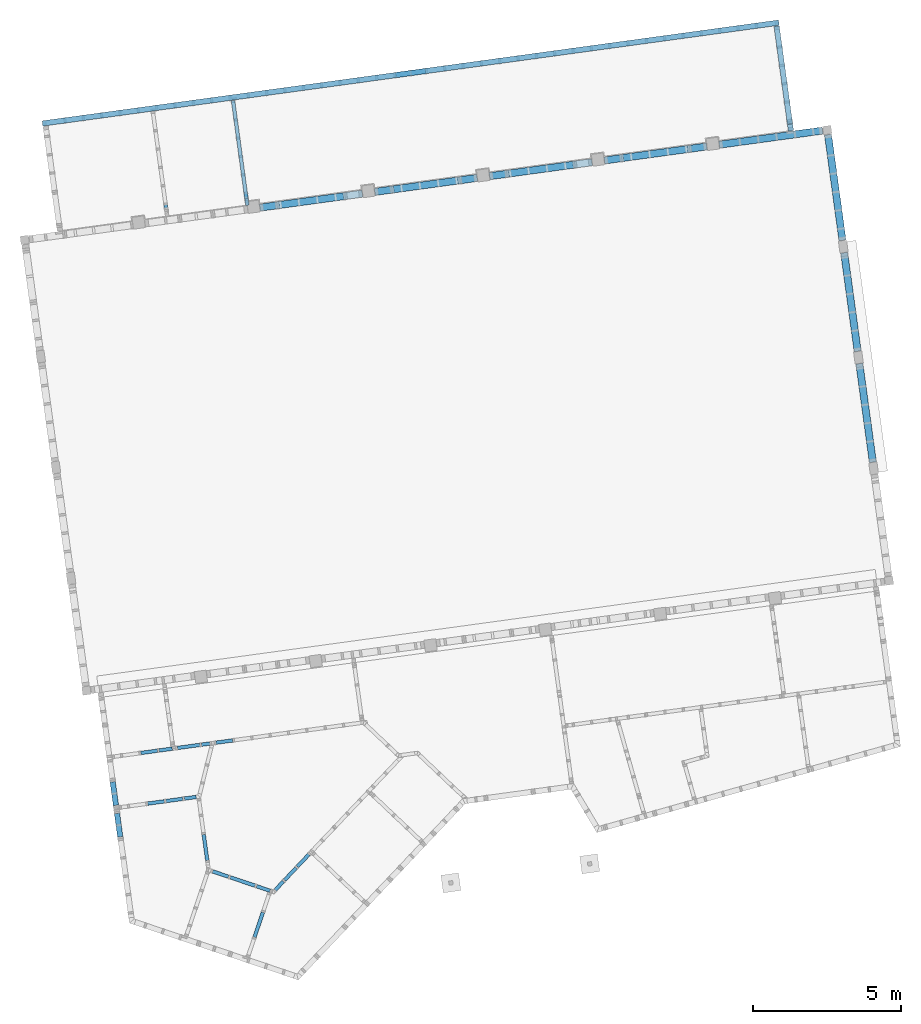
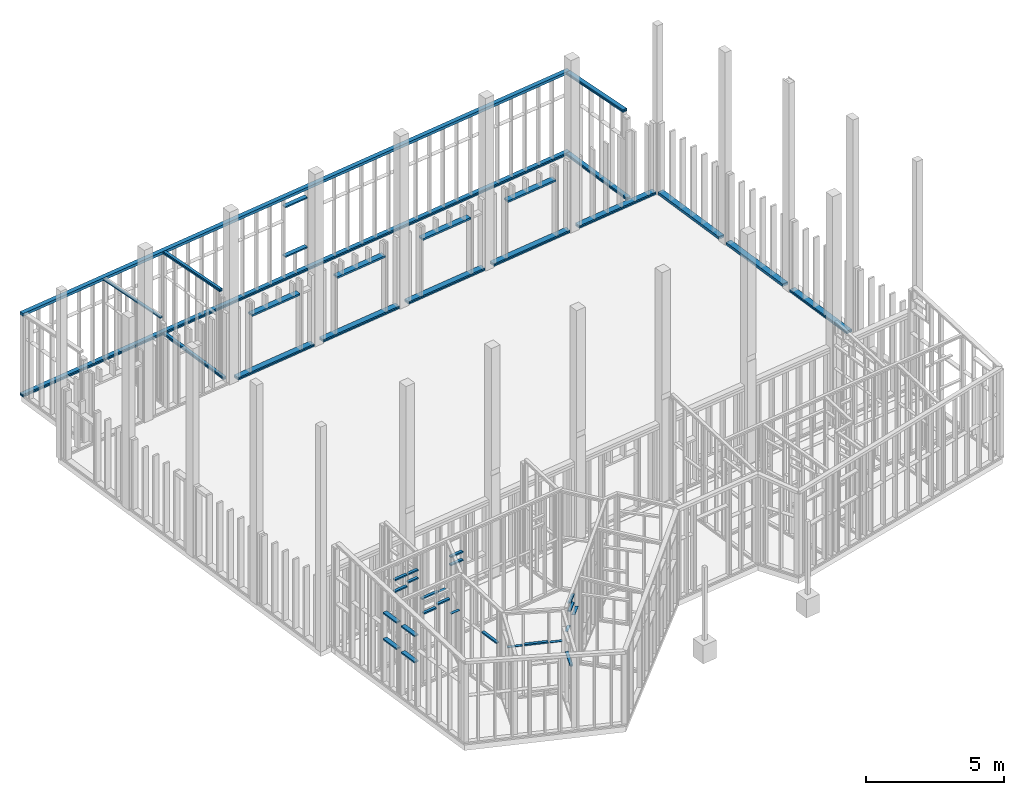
# One storey, part 13 of 24: 58 beams.
"""IFC2X3 building model written with IfcOpenShell, lengths in metres."""

from ifc_helpers import new_model, entity, si_unit, converted_unit, derived_unit, money_unit, direction, frame, frame_2d, origin_with_axes, place, context, subcontext, project, spatial, rectangle, extrude, clip, halfspace, material, type_object, element, save


model = new_model("IFC2X3")

# Units and contexts
model_context = context("Model", 3, precision=1e-05, world=origin_with_axes(), true_north=direction((0.0, 1.0)))
body_context = subcontext(model_context, "Body", "Model", "MODEL_VIEW")
ifc_project = project(units=[si_unit("LENGTHUNIT", "METRE"), si_unit("AREAUNIT", "SQUARE_METRE"), si_unit("VOLUMEUNIT", "CUBIC_METRE"), converted_unit("PLANEANGLEUNIT", "DEGREE", entity("IfcPlaneAngleMeasure", 0.0174532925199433), si_unit("PLANEANGLEUNIT", "RADIAN"), dimensions=[0, 0, 0, 0, 0, 0, 0]), money_unit("EUR"), converted_unit("TIMEUNIT", "Year", entity("IfcTimeMeasure", 31557600.0), si_unit("TIMEUNIT", "SECOND"), dimensions=[0, 0, 1, 0, 0, 0, 0]), si_unit("MASSUNIT", "GRAM", prefix="KILO"), si_unit("THERMODYNAMICTEMPERATUREUNIT", "DEGREE_CELSIUS"), si_unit("LUMINOUSINTENSITYUNIT", "LUMEN"), si_unit("ENERGYUNIT", "JOULE", prefix="MEGA"), derived_unit("THERMALCONDUCTANCEUNIT", [(si_unit("POWERUNIT", "WATT"), 1), (si_unit("LENGTHUNIT", "METRE"), -1), (si_unit("THERMODYNAMICTEMPERATUREUNIT", "KELVIN"), -1)]), derived_unit("SPECIFICHEATCAPACITYUNIT", [(si_unit("ENERGYUNIT", "JOULE"), 1), (si_unit("MASSUNIT", "GRAM", prefix="KILO"), -1), (si_unit("THERMODYNAMICTEMPERATUREUNIT", "KELVIN"), -1)]), derived_unit("MASSDENSITYUNIT", [(si_unit("MASSUNIT", "GRAM", prefix="KILO"), 1), (si_unit("VOLUMEUNIT", "CUBIC_METRE"), -1)])], contexts=[model_context])

# Site, building, storey
site_placement = place(None, origin_with_axes())
site = spatial("IfcSite", under=ifc_project, at=site_placement, Name="Gelände", CompositionType="ELEMENT")
building_placement = place(site_placement, origin_with_axes())
building = spatial("IfcBuilding", under=site, at=building_placement, Name="Gebäude", CompositionType="ELEMENT")
storey_placement = place(building_placement, origin_with_axes())
storey = spatial("IfcBuildingStorey", under=building, at=storey_placement, Name="EG", CompositionType="ELEMENT", Elevation=0.0)

# Beams
ifc_material_1 = material(Name="Bauholz")
beam_type_1 = type_object("IfcBeamType", Name="Bauholz 120 x 60", PredefinedType="NOTDEFINED")
beam_1_placement = place(storey_placement, frame((91.99806383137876, -134.3936317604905, 3.753975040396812), z_axis=(0.0, 0.0, 1.0), x_axis=(0.9907484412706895, 0.1357111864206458, 0.0)))
element("IfcBeam", 1, at=beam_1_placement, inside=storey, type_object=beam_type_1, material=ifc_material_1, Name="Unterzug-021", context=body_context, shape_type="Clipping", body=[
    clip(clip(extrude(rectangle(XDim=0.06, YDim=0.12, at=frame_2d((-0.03, 0.0), x_axis=(1.0, 0.0))), frame((0.0, -0.008881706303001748, 0.0004654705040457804), z_axis=(0.0, 0.9986295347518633, -0.05233595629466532), x_axis=(0.0, 0.05233595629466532, 0.9986295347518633)), (0.0, 0.0, 1.0), 3.361870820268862), halfspace(frame((0.0, 0.0, 0.0), z_axis=(0.0, 1.0, 0.0), x_axis=(0.0, 0.0, 1.0)), True)), halfspace(frame((0.0, 3.339500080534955, 0.0), z_axis=(0.0, -1.0, 0.0), x_axis=(0.0, 0.0, -1.0)), True)),
])
beam_2_placement = place(storey_placement, frame((89.66918951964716, -152.9504990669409, 2.195), z_axis=(0.0, 0.0, 1.0), x_axis=(0.1357111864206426, -0.99074844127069, 0.0)))
element("IfcBeam", 2, at=beam_2_placement, inside=storey, type_object=beam_type_1, material=ifc_material_1, Name="Unterzug-021", context=body_context, shape_type="SweptSolid", body=[
    extrude(rectangle(XDim=0.06, YDim=0.12, at=frame_2d((-0.03, 0.0), x_axis=(1.0, 0.0))), frame((0.0, 0.0, 0.0), z_axis=(0.0, 1.0, 0.0), x_axis=(0.0, 0.0, 1.0)), (0.0, 0.0, 1.0), 0.760000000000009),
])
beam_3_placement = place(storey_placement, frame((90.55506909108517, -155.8726974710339, 2.195), z_axis=(0.0, 0.0, 1.0), x_axis=(-0.990748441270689, -0.1357111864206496, 0.0)))
element("IfcBeam", 3, at=beam_3_placement, inside=storey, type_object=beam_type_1, material=ifc_material_1, Name="Unterzug-021", context=body_context, shape_type="SweptSolid", body=[
    extrude(rectangle(XDim=0.06, YDim=0.12, at=frame_2d((-0.03, 0.0), x_axis=(1.0, 0.0))), frame((0.0, 0.0, 0.0), z_axis=(0.0, 1.0, 0.0), x_axis=(0.0, 0.0, 1.0)), (0.0, 0.0, 1.0), 0.8849999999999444),
])
beam_4_placement = place(storey_placement, frame((91.4473038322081, -157.3179234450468, 2.195), z_axis=(0.0, 0.0, 1.0), x_axis=(-0.3197980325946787, -0.9474857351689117, 0.0)))
element("IfcBeam", 4, at=beam_4_placement, inside=storey, type_object=beam_type_1, material=ifc_material_1, Name="Unterzug-021", context=body_context, shape_type="SweptSolid", body=[
    extrude(rectangle(XDim=0.06, YDim=0.12, at=frame_2d((-0.03, 0.0), x_axis=(1.0, 0.0))), frame((0.0, 0.0, 0.0), z_axis=(0.0, 1.0, 0.0), x_axis=(0.0, 0.0, 1.0)), (0.0, 0.0, 1.0), 0.8849999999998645),
])
beam_5_placement = place(storey_placement, frame((92.27077831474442, -159.3413116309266, 2.195), z_axis=(0.0, 0.0, 1.0), x_axis=(0.9474859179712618, -0.3197974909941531, 0.0)))
element("IfcBeam", 5, at=beam_5_placement, inside=storey, type_object=beam_type_1, material=ifc_material_1, Name="Unterzug-021", context=body_context, shape_type="SweptSolid", body=[
    extrude(rectangle(XDim=0.06, YDim=0.12, at=frame_2d((-0.03, 0.0), x_axis=(1.0, 0.0))), frame((0.0, 0.0, 0.0), z_axis=(0.0, 1.0, 0.0), x_axis=(0.0, 0.0, 1.0)), (0.0, 0.0, 1.0), 0.8850000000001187),
])
beam_6_placement = place(storey_placement, frame((89.290650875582, -134.7644889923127, 3.753975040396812), z_axis=(0.0, 0.0, 1.0), x_axis=(0.9907484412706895, 0.1357111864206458, 0.0)))
element("IfcBeam", 6, at=beam_6_placement, inside=storey, type_object=beam_type_1, material=ifc_material_1, Name="Unterzug-021", context=body_context, shape_type="Clipping", body=[
    clip(clip(extrude(rectangle(XDim=0.06, YDim=0.12, at=frame_2d((-0.03, 0.0), x_axis=(1.0, 0.0))), frame((0.0, -0.008881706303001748, 0.0004654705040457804), z_axis=(0.0, 0.9986295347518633, -0.05233595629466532), x_axis=(0.0, 0.05233595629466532, 0.9986295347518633)), (0.0, 0.0, 1.0), 3.361870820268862), halfspace(frame((0.0, 0.0, 0.0), z_axis=(0.0, 1.0, 0.0), x_axis=(0.0, 0.0, 1.0)), True)), halfspace(frame((0.0, 3.339500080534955, 0.0), z_axis=(0.0, -1.0, 0.0), x_axis=(0.0, 0.0, -1.0)), True)),
])
beam_7_placement = place(storey_placement, frame((92.02968452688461, -134.624476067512, 0.04999999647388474), z_axis=(0.0, 0.0, 1.0), x_axis=(0.99074844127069, 0.1357111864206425, 0.0)))
element("IfcBeam", 7, at=beam_7_placement, inside=storey, type_object=beam_type_1, material=ifc_material_1, Name="Unterzug-021", context=body_context, shape_type="SweptSolid", body=[
    extrude(rectangle(XDim=0.06, YDim=0.12, at=frame_2d((-0.03, 0.0), x_axis=(1.0, 0.0))), frame((0.0, 0.0, 0.0), z_axis=(0.0, 1.0, 0.0), x_axis=(0.0, 0.0, 1.0)), (0.0, 0.0, 1.0), 3.572499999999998),
])
for number, where, z_axis, x_axis, name in (
    (8, (88.43075396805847, -153.1201380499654, 3.053158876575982), (0.0, 0.0, 1.0), (0.1357111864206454, -0.9907484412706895, 0.0), "Unterzug-021"),
    (9, (88.43075396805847, -153.1201380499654, 3.570158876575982), (0.0, 0.0, 1.0), (0.1357111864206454, -0.9907484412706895, 0.0), "Unterzug-021"),
):
    element("IfcBeam", number, at=place(storey_placement, frame(where, z_axis=z_axis, x_axis=x_axis)), inside=storey, type_object=beam_type_1, material=ifc_material_1, Name=name, context=body_context, shape_type="SweptSolid", body=[
        extrude(rectangle(XDim=0.06, YDim=0.12, at=frame_2d((-0.03, 0.0), x_axis=(1.0, 0.0))), frame((0.0, 0.0, 0.0), z_axis=(0.0, 1.0, 0.0), x_axis=(0.0, 0.0, 1.0)), (0.0, 0.0, 1.0), 0.5649999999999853),
    ])
for number, where, z_axis, x_axis, name in (
    (10, (89.04997174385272, -153.035318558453, 3.568823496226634), (0.0, 0.0, 1.0), (0.1357111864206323, -0.9907484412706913, 0.0), "Unterzug-021"),
    (11, (89.04997174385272, -153.035318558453, 3.206823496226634), (0.0, 0.0, 1.0), (0.1357111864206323, -0.9907484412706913, 0.0), "Unterzug-021"),
):
    element("IfcBeam", number, at=place(storey_placement, frame(where, z_axis=z_axis, x_axis=x_axis)), inside=storey, type_object=beam_type_1, material=ifc_material_1, Name=name, context=body_context, shape_type="SweptSolid", body=[
        extrude(rectangle(XDim=0.06, YDim=0.12, at=frame_2d((-0.03, 0.0), x_axis=(1.0, 0.0))), frame((0.0, 0.0, 0.0), z_axis=(0.0, 1.0, 0.0), x_axis=(0.0, 0.0, 1.0)), (0.0, 0.0, 1.0), 0.4449999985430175),
    ])
for number, where, z_axis, x_axis, name in (
    (12, (90.97152172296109, -152.7721076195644, 3.130658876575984), (0.0, 0.0, 1.0), (0.1357111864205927, -0.9907484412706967, 0.0), "Unterzug-021"),
    (13, (90.97152172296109, -152.7721076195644, 3.492658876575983), (0.0, 0.0, 1.0), (0.1357111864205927, -0.9907484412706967, 0.0), "Unterzug-021"),
):
    element("IfcBeam", number, at=place(storey_placement, frame(where, z_axis=z_axis, x_axis=x_axis)), inside=storey, type_object=beam_type_1, material=ifc_material_1, Name=name, context=body_context, shape_type="SweptSolid", body=[
        extrude(rectangle(XDim=0.06, YDim=0.12, at=frame_2d((-0.03, 0.0), x_axis=(1.0, 0.0))), frame((0.0, 0.0, 0.0), z_axis=(0.0, 1.0, 0.0), x_axis=(0.0, 0.0, 1.0)), (0.0, 0.0, 1.0), 0.5649999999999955),
    ])
beam_8_placement = place(storey_placement, frame((89.84384641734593, -154.6676828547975, 3.181823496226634), z_axis=(0.0, 0.0, 1.0), x_axis=(-0.135711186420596, 0.9907484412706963, 0.0)))
element("IfcBeam", 14, at=beam_8_placement, inside=storey, type_object=beam_type_1, material=ifc_material_1, Name="Unterzug-021", context=body_context, shape_type="SweptSolid", body=[
    extrude(rectangle(XDim=0.06, YDim=0.12, at=frame_2d((-0.03, 0.0), x_axis=(1.0, 0.0))), frame((0.0, 0.0, 0.0), z_axis=(0.0, 1.0, 0.0), x_axis=(0.0, 0.0, 1.0)), (0.0, 0.0, 1.0), 0.5649999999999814),
])
beam_9_placement = place(storey_placement, frame((89.22462864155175, -154.7525023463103, 3.053158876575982), z_axis=(0.0, 0.0, 1.0), x_axis=(-0.1357111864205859, 0.9907484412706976, 0.0)))
element("IfcBeam", 15, at=beam_9_placement, inside=storey, type_object=beam_type_1, material=ifc_material_1, Name="Unterzug-021", context=body_context, shape_type="SweptSolid", body=[
    extrude(rectangle(XDim=0.06, YDim=0.12, at=frame_2d((-0.03, 0.0), x_axis=(1.0, 0.0))), frame((0.0, 0.0, 0.0), z_axis=(0.0, 1.0, 0.0), x_axis=(0.0, 0.0, 1.0)), (0.0, 0.0, 1.0), 0.5650000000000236),
])
for number, where, z_axis, x_axis, name in (
    (16, (93.28633977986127, -157.4133518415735, 3.448606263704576), (0.0, 0.0, 1.0), (0.7262467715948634, -0.687434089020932, 0.0), "Unterzug-021"),
    (17, (93.28633977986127, -157.4133518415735, 3.086606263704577), (0.0, 0.0, 1.0), (0.7262467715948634, -0.687434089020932, 0.0), "Unterzug-021"),
):
    element("IfcBeam", number, at=place(storey_placement, frame(where, z_axis=z_axis, x_axis=x_axis)), inside=storey, type_object=beam_type_1, material=ifc_material_1, Name=name, context=body_context, shape_type="SweptSolid", body=[
        extrude(rectangle(XDim=0.06, YDim=0.12, at=frame_2d((-0.03, 0.0), x_axis=(1.0, 0.0))), frame((0.0, 0.0, 0.0), z_axis=(0.0, 1.0, 0.0), x_axis=(0.0, 0.0, 1.0)), (0.0, 0.0, 1.0), 0.5649999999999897),
    ])
ifc_material_2 = material(Name="Holz, Bauholz")
beam_type_2 = type_object("IfcBeamType", Name="Holz, Bauholz 240 x 60", PredefinedType="NOTDEFINED")
beam_10_placement = place(storey_placement, frame((111.4561507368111, -132.0997294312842, -0.08800000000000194), z_axis=(0.0, 0.0, 1.0), x_axis=(-0.1357111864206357, 0.9907484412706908, 0.0)))
element("IfcBeam", 18, at=beam_10_placement, inside=storey, type_object=beam_type_2, material=ifc_material_2, Name="Unterzug-021", context=body_context, shape_type="SweptSolid", body=[
    extrude(rectangle(XDim=0.06, YDim=0.24, at=frame_2d((-0.03, 0.0), x_axis=(1.0, 0.0))), frame((0.0, 0.0, 0.0), z_axis=(0.0, 1.0, 0.0), x_axis=(0.0, 0.0, 1.0)), (0.0, 0.0, 1.0), 3.524285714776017),
])
beam_11_placement = place(storey_placement, frame((107.5483558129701, -132.6350131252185, -0.08800000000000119), z_axis=(0.0, 0.0, 1.0), x_axis=(-0.1357111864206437, 0.9907484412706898, 0.0)))
element("IfcBeam", 19, at=beam_11_placement, inside=storey, type_object=beam_type_2, material=ifc_material_2, Name="Unterzug-021", context=body_context, shape_type="SweptSolid", body=[
    extrude(rectangle(XDim=0.06, YDim=0.24, at=frame_2d((-0.03, 0.0), x_axis=(1.0, 0.0))), frame((0.0, 0.0, 0.0), z_axis=(0.0, 1.0, 0.0), x_axis=(0.0, 0.0, 1.0)), (0.0, 0.0, 1.0), 3.494285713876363),
])
beam_12_placement = place(storey_placement, frame((103.6702833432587, -133.166225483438, -0.08800000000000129), z_axis=(0.0, 0.0, 1.0), x_axis=(-0.1357111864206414, 0.9907484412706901, 0.0)))
element("IfcBeam", 20, at=beam_12_placement, inside=storey, type_object=beam_type_2, material=ifc_material_2, Name="Unterzug-021", context=body_context, shape_type="SweptSolid", body=[
    extrude(rectangle(XDim=0.06, YDim=0.24, at=frame_2d((-0.03, 0.0), x_axis=(1.0, 0.0))), frame((0.0, 0.0, 0.0), z_axis=(0.0, 1.0, 0.0), x_axis=(0.0, 0.0, 1.0)), (0.0, 0.0, 1.0), 3.494285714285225),
])
beam_13_placement = place(storey_placement, frame((95.91413840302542, -134.2286501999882, -0.08800000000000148), z_axis=(0.0, 0.0, 1.0), x_axis=(-0.1357111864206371, 0.9907484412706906, 0.0)))
element("IfcBeam", 21, at=beam_13_placement, inside=storey, type_object=beam_type_2, material=ifc_material_2, Name="Unterzug-021", context=body_context, shape_type="SweptSolid", body=[
    extrude(rectangle(XDim=0.06, YDim=0.24, at=frame_2d((-0.03, 0.0), x_axis=(1.0, 0.0))), frame((0.0, 0.0, 0.0), z_axis=(0.0, 1.0, 0.0), x_axis=(0.0, 0.0, 1.0)), (0.0, 0.0, 1.0), 3.494285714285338),
])
beam_14_placement = place(storey_placement, frame((99.79221087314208, -133.6974378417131, -0.08800000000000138), z_axis=(0.0, 0.0, 1.0), x_axis=(-0.1357111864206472, 0.9907484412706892, 0.0)))
element("IfcBeam", 22, at=beam_14_placement, inside=storey, type_object=beam_type_2, material=ifc_material_2, Name="Unterzug-021", context=body_context, shape_type="SweptSolid", body=[
    extrude(rectangle(XDim=0.06, YDim=0.24, at=frame_2d((-0.03, 0.0), x_axis=(1.0, 0.0))), frame((0.0, 0.0, 0.0), z_axis=(0.0, 1.0, 0.0), x_axis=(0.0, 0.0, 1.0)), (0.0, 0.0, 1.0), 3.494285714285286),
])
beam_type_3 = type_object("IfcBeamType", Name="Bauholz 240 x 60", PredefinedType="NOTDEFINED")
beam_15_placement = place(storey_placement, frame((111.4561507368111, -132.0997294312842, -0.02800000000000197), z_axis=(0.0, 0.0, 1.0), x_axis=(-0.1357111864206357, 0.9907484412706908, 0.0)))
element("IfcBeam", 23, at=beam_15_placement, inside=storey, type_object=beam_type_3, material=ifc_material_1, Name="Unterzug-021", context=body_context, shape_type="SweptSolid", body=[
    extrude(rectangle(XDim=0.06, YDim=0.24, at=frame_2d((-0.03, 0.0), x_axis=(1.0, 0.0))), frame((0.0, 0.0, 0.0), z_axis=(0.0, 1.0, 0.0), x_axis=(0.0, 0.0, 1.0)), (0.0, 0.0, 1.0), 3.524285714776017),
])
beam_16_placement = place(storey_placement, frame((107.5483558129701, -132.6350131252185, -0.02800000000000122), z_axis=(0.0, 0.0, 1.0), x_axis=(-0.1357111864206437, 0.9907484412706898, 0.0)))
element("IfcBeam", 24, at=beam_16_placement, inside=storey, type_object=beam_type_3, material=ifc_material_1, Name="Unterzug-021", context=body_context, shape_type="SweptSolid", body=[
    extrude(rectangle(XDim=0.06, YDim=0.24, at=frame_2d((-0.03, 0.0), x_axis=(1.0, 0.0))), frame((0.0, 0.0, 0.0), z_axis=(0.0, 1.0, 0.0), x_axis=(0.0, 0.0, 1.0)), (0.0, 0.0, 1.0), 3.494285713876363),
])
beam_17_placement = place(storey_placement, frame((103.6702833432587, -133.166225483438, -0.02800000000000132), z_axis=(0.0, 0.0, 1.0), x_axis=(-0.1357111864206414, 0.9907484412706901, 0.0)))
element("IfcBeam", 25, at=beam_17_placement, inside=storey, type_object=beam_type_3, material=ifc_material_1, Name="Unterzug-021", context=body_context, shape_type="SweptSolid", body=[
    extrude(rectangle(XDim=0.06, YDim=0.24, at=frame_2d((-0.03, 0.0), x_axis=(1.0, 0.0))), frame((0.0, 0.0, 0.0), z_axis=(0.0, 1.0, 0.0), x_axis=(0.0, 0.0, 1.0)), (0.0, 0.0, 1.0), 3.494285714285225),
])
beam_18_placement = place(storey_placement, frame((99.79221087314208, -133.6974378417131, -0.02800000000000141), z_axis=(0.0, 0.0, 1.0), x_axis=(-0.1357111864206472, 0.9907484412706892, 0.0)))
element("IfcBeam", 26, at=beam_18_placement, inside=storey, type_object=beam_type_3, material=ifc_material_1, Name="Unterzug-021", context=body_context, shape_type="SweptSolid", body=[
    extrude(rectangle(XDim=0.06, YDim=0.24, at=frame_2d((-0.03, 0.0), x_axis=(1.0, 0.0))), frame((0.0, 0.0, 0.0), z_axis=(0.0, 1.0, 0.0), x_axis=(0.0, 0.0, 1.0)), (0.0, 0.0, 1.0), 3.494285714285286),
])
beam_19_placement = place(storey_placement, frame((95.91413840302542, -134.2286501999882, -0.02800000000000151), z_axis=(0.0, 0.0, 1.0), x_axis=(-0.1357111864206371, 0.9907484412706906, 0.0)))
element("IfcBeam", 27, at=beam_19_placement, inside=storey, type_object=beam_type_3, material=ifc_material_1, Name="Unterzug-021", context=body_context, shape_type="SweptSolid", body=[
    extrude(rectangle(XDim=0.06, YDim=0.24, at=frame_2d((-0.03, 0.0), x_axis=(1.0, 0.0))), frame((0.0, 0.0, 0.0), z_axis=(0.0, 1.0, 0.0), x_axis=(0.0, 0.0, 1.0)), (0.0, 0.0, 1.0), 3.494285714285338),
])
beam_type_4 = type_object("IfcBeamType", Name="Bauholz 120 x 15", PredefinedType="NOTDEFINED")
beam_20_placement = place(storey_placement, frame((92.97295159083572, -157.7444339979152, 2.471999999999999), z_axis=(0.0, 0.0, 1.0), x_axis=(0.7262467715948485, -0.6874340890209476, 0.0)))
element("IfcBeam", 28, at=beam_20_placement, inside=storey, type_object=beam_type_4, material=ifc_material_1, Name="Unterzug-021", context=body_context, shape_type="SweptSolid", body=[
    extrude(rectangle(XDim=0.015, YDim=0.12, at=frame_2d((-0.0075, 0.0), x_axis=(1.0, 0.0))), frame((0.0, 0.0, 0.0), z_axis=(0.0, 1.0, 0.0), x_axis=(0.0, 0.0, 1.0)), (0.0, 0.0, 1.0), 0.3958810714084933),
])
beam_21_placement = place(storey_placement, frame((93.71598608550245, -156.9594476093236, 2.471999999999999), z_axis=(0.0, 0.0, 1.0), x_axis=(0.726246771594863, -0.6874340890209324, 0.0)))
element("IfcBeam", 29, at=beam_21_placement, inside=storey, type_object=beam_type_4, material=ifc_material_1, Name="Unterzug-021", context=body_context, shape_type="SweptSolid", body=[
    extrude(rectangle(XDim=0.015, YDim=0.12, at=frame_2d((-0.0075, 0.0), x_axis=(1.0, 0.0))), frame((0.0, 0.0, 0.0), z_axis=(0.0, 1.0, 0.0), x_axis=(0.0, 0.0, 1.0)), (0.0, 0.0, 1.0), 0.5649999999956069),
])
beam_22_placement = place(storey_placement, frame((90.8551253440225, -157.1180497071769, 2.15), z_axis=(0.0, 0.0, 1.0), x_axis=(-0.3197980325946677, -0.9474857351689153, 0.0)))
element("IfcBeam", 30, at=beam_22_placement, inside=storey, type_object=beam_type_4, material=ifc_material_1, Name="Unterzug-021", context=body_context, shape_type="SweptSolid", body=[
    extrude(rectangle(XDim=0.015, YDim=0.12, at=frame_2d((-0.0075, 0.0), x_axis=(1.0, 0.0))), frame((0.0, 0.0, 0.0), z_axis=(0.0, 1.0, 0.0), x_axis=(0.0, 0.0, 1.0)), (0.0, 0.0, 1.0), 0.5649999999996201),
])
beam_23_placement = place(storey_placement, frame((90.48160324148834, -152.8392158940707, 2.149999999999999), z_axis=(0.0, 0.0, 1.0), x_axis=(0.1357111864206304, -0.9907484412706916, 0.0)))
element("IfcBeam", 31, at=beam_23_placement, inside=storey, type_object=beam_type_4, material=ifc_material_1, Name="Unterzug-021", context=body_context, shape_type="SweptSolid", body=[
    extrude(rectangle(XDim=0.015, YDim=0.12, at=frame_2d((-0.0075, 0.0), x_axis=(1.0, 0.0))), frame((0.0, 0.0, 0.0), z_axis=(0.0, 1.0, 0.0), x_axis=(0.0, 0.0, 1.0)), (0.0, 0.0, 1.0), 0.2816509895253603),
])
beam_24_placement = place(storey_placement, frame((90.29944731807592, -154.6052753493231, 2.471999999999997), z_axis=(0.0, 0.0, 1.0), x_axis=(-0.1357111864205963, 0.9907484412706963, 0.0)))
element("IfcBeam", 32, at=beam_24_placement, inside=storey, type_object=beam_type_4, material=ifc_material_1, Name="Unterzug-021", context=body_context, shape_type="SweptSolid", body=[
    extrude(rectangle(XDim=0.015, YDim=0.12, at=frame_2d((-0.0075, 0.0), x_axis=(1.0, 0.0))), frame((0.0, 0.0, 0.0), z_axis=(0.0, 1.0, 0.0), x_axis=(0.0, 0.0, 1.0)), (0.0, 0.0, 1.0), 0.3998552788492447),
])
beam_25_placement = place(storey_placement, frame((92.34267794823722, -157.6201326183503, 2.15), z_axis=(0.0, 0.0, 1.0), x_axis=(-0.3197980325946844, -0.9474857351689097, 0.0)))
element("IfcBeam", 33, at=beam_25_placement, inside=storey, type_object=beam_type_4, material=ifc_material_1, Name="Unterzug-021", context=body_context, shape_type="SweptSolid", body=[
    extrude(rectangle(XDim=0.015, YDim=0.12, at=frame_2d((-0.0075, 0.0), x_axis=(1.0, 0.0))), frame((0.0, 0.0, 0.0), z_axis=(0.0, 1.0, 0.0), x_axis=(0.0, 0.0, 1.0)), (0.0, 0.0, 1.0), 0.4824438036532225),
])
beam_type_5 = type_object("IfcBeamType", Name="Holz, Bauholz 120 x 60", PredefinedType="NOTDEFINED")
beam_26_placement = place(storey_placement, frame((92.02968452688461, -134.624476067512, -0.01000000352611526), z_axis=(0.0, 0.0, 1.0), x_axis=(0.99074844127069, 0.1357111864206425, 0.0)))
element("IfcBeam", 34, at=beam_26_placement, inside=storey, type_object=beam_type_5, material=ifc_material_2, Name="Unterzug-021", context=body_context, shape_type="SweptSolid", body=[
    extrude(rectangle(XDim=0.06, YDim=0.12, at=frame_2d((-0.03, 0.0), x_axis=(1.0, 0.0))), frame((0.0, 0.0, 0.0), z_axis=(0.0, 1.0, 0.0), x_axis=(0.0, 0.0, 1.0)), (0.0, 0.0, 1.0), 3.572499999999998),
])
beam_27_placement = place(storey_placement, frame((91.99826708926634, -134.3951156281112, 3.814135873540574), z_axis=(0.0, 0.0, 1.0), x_axis=(0.9907484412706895, 0.1357111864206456, 0.0)))
element("IfcBeam", 35, at=beam_27_placement, inside=storey, type_object=beam_type_5, material=ifc_material_2, Name="Unterzug-021", context=body_context, shape_type="Clipping", body=[
    clip(clip(extrude(rectangle(XDim=0.06, YDim=0.12, at=frame_2d((-0.03, 0.0), x_axis=(1.0, 0.0))), frame((0.0, -0.008881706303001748, 0.0004654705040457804), z_axis=(0.0, 0.9986295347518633, -0.05233595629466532), x_axis=(0.0, 0.05233595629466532, 0.9986295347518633)), (0.0, 0.0, 1.0), 3.364787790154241), halfspace(frame((0.0, 0.0, 0.0), z_axis=(0.0, 1.0, 0.0), x_axis=(0.0, 0.0, 1.0)), True)), halfspace(frame((0.0, 3.342413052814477, 0.0), z_axis=(0.0, -1.0, 0.0), x_axis=(0.0, 0.0, -1.0)), True)),
])
beam_type_6 = type_object("IfcBeamType", Name="Holz, Bauholz 240 x 120", PredefinedType="NOTDEFINED")
beam_28_placement = place(storey_placement, frame((112.1847390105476, -136.2250171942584, -0.02800000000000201), z_axis=(0.0, 0.0, 1.0), x_axis=(-0.9907484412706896, -0.1357111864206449, 0.0)))
element("IfcBeam", 36, at=beam_28_placement, inside=storey, type_object=beam_type_6, material=ifc_material_2, Name="Unterzug-021", context=body_context, shape_type="SweptSolid", body=[
    extrude(rectangle(XDim=0.1199999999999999, YDim=0.24, at=frame_2d((-0.05999999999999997, 0.0), x_axis=(1.0, 0.0))), frame((0.0, 0.0, 0.0), z_axis=(0.0, 1.0, 0.0), x_axis=(0.0, 0.0, 1.0)), (0.0, 0.0, 1.0), 3.359999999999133),
])
beam_29_placement = place(storey_placement, frame((112.1277403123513, -135.8089028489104, -0.02800000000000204), z_axis=(0.0, 0.0, 1.0), x_axis=(0.99074844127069, 0.1357111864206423, 0.0)))
element("IfcBeam", 37, at=beam_29_placement, inside=storey, type_object=beam_type_6, material=ifc_material_2, Name="Unterzug-021", context=body_context, shape_type="SweptSolid", body=[
    extrude(rectangle(XDim=0.1199999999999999, YDim=0.24, at=frame_2d((-0.05999999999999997, 0.0), x_axis=(1.0, 0.0))), frame((0.0, 0.0, 0.0), z_axis=(0.0, 1.0, 0.0), x_axis=(0.0, 0.0, 1.0)), (0.0, 0.0, 1.0), 3.60400000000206),
])
beam_30_placement = place(storey_placement, frame((112.6977272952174, -139.9700463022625, -0.02800000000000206), z_axis=(0.0, 0.0, 1.0), x_axis=(-0.9907484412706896, -0.1357111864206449, 0.0)))
element("IfcBeam", 38, at=beam_30_placement, inside=storey, type_object=beam_type_6, material=ifc_material_2, Name="Unterzug-021", context=body_context, shape_type="SweptSolid", body=[
    extrude(rectangle(XDim=0.1199999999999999, YDim=0.24, at=frame_2d((-0.05999999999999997, 0.0), x_axis=(1.0, 0.0))), frame((0.0, 0.0, 0.0), z_axis=(0.0, 1.0, 0.0), x_axis=(0.0, 0.0, 1.0)), (0.0, 0.0, 1.0), 3.359999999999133),
])
ifc_material_3 = material(Name="Holz, Bauholz-hart")
beam_type_7 = type_object("IfcBeamType", Name="Holz, Bauholz-hart 240 x 60", PredefinedType="NOTDEFINED")
beam_31_placement = place(storey_placement, frame((112.1277403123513, -135.8089028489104, -0.02800000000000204), z_axis=(0.0, 0.0, 1.0), x_axis=(0.99074844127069, 0.1357111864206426, 0.0)))
element("IfcBeam", 39, at=beam_31_placement, inside=storey, type_object=beam_type_7, material=ifc_material_3, Name="Unterzug-021", context=body_context, shape_type="SweptSolid", body=[
    extrude(rectangle(XDim=0.05999999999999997, YDim=0.24, at=frame_2d((-0.02999999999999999, 0.0), x_axis=(1.0, 0.0))), frame((0.0, 0.0, 0.0), z_axis=(0.0, 1.0, 0.0), x_axis=(0.0, 0.0, 1.0)), (0.0, 0.0, 1.0), 3.604000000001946),
])
for number, where, z_axis, x_axis, name in (
    (40, (112.6977272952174, -139.9700463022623, -0.02800000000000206), (0.0, 0.0, 1.0), (-0.9907484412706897, -0.1357111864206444, 0.0), "Unterzug-021"),
    (41, (112.1847390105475, -136.2250171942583, -0.02800000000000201), (0.0, 0.0, 1.0), (-0.9907484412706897, -0.1357111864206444, 0.0), "Unterzug-021"),
):
    element("IfcBeam", number, at=place(storey_placement, frame(where, z_axis=z_axis, x_axis=x_axis)), inside=storey, type_object=beam_type_7, material=ifc_material_3, Name=name, context=body_context, shape_type="SweptSolid", body=[
        extrude(rectangle(XDim=0.05999999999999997, YDim=0.24, at=frame_2d((-0.02999999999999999, 0.0), x_axis=(1.0, 0.0))), frame((0.0, 0.0, 0.0), z_axis=(0.0, 1.0, 0.0), x_axis=(0.0, 0.0, 1.0)), (0.0, 0.0, 1.0), 3.359999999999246),
    ])
beam_type_8 = type_object("IfcBeamType", Name="Bauholz 180 x 120", PredefinedType="NOTDEFINED")
beam_32_placement = place(storey_placement, frame((85.1102508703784, -131.8604490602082, 3.633538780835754), z_axis=(0.0, 0.0, 1.0), x_axis=(0.1357111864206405, -0.9907484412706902, 0.0)))
element("IfcBeam", 42, at=beam_32_placement, inside=storey, type_object=beam_type_8, material=ifc_material_1, Name="Unterzug-035", context=body_context, shape_type="SweptSolid", body=[
    extrude(rectangle(XDim=0.12, YDim=0.18, at=frame_2d((-0.06, 0.0), x_axis=(1.0, 0.0))), frame((0.0, 0.0, 0.0), z_axis=(0.0, 1.0, 0.0), x_axis=(0.0, 0.0, 1.0)), (0.0, 0.0, 1.0), 25.0993724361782),
])
beam_type_9 = type_object("IfcBeamType", Name="Holz, Bauholz 180 x 60", PredefinedType="NOTDEFINED")
beam_33_placement = place(storey_placement, frame((109.9774149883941, -128.4541834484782, -0.01000000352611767), z_axis=(0.0, 0.0, 1.0), x_axis=(-0.1357111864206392, 0.9907484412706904, 0.0)))
element("IfcBeam", 43, at=beam_33_placement, inside=storey, type_object=beam_type_9, material=ifc_material_2, Name="Unterzug-021", context=body_context, shape_type="SweptSolid", body=[
    extrude(rectangle(XDim=0.06, YDim=0.18, at=frame_2d((-0.03, 0.0), x_axis=(1.0, 0.0))), frame((0.0, 0.0, 0.0), z_axis=(0.0, 1.0, 0.0), x_axis=(0.0, 0.0, 1.0)), (0.0, 0.0, 1.0), 25.09937243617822),
])
beam_34_placement = place(storey_placement, frame((109.9024972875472, -128.5704260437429, -0.01000000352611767), z_axis=(0.0, 0.0, 1.0), x_axis=(-0.9907484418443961, -0.1357111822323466, 0.0)))
element("IfcBeam", 44, at=beam_34_placement, inside=storey, type_object=beam_type_9, material=ifc_material_2, Name="Unterzug-021", context=body_context, shape_type="SweptSolid", body=[
    extrude(rectangle(XDim=0.06, YDim=0.18, at=frame_2d((-0.03, 0.0), x_axis=(1.0, 0.0))), frame((0.0, 0.0, 0.0), z_axis=(0.0, 1.0, 0.0), x_axis=(0.0, 0.0, 1.0)), (0.0, 0.0, 1.0), 3.572499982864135),
])
beam_35_placement = place(storey_placement, frame((109.9024972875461, -128.5704260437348, 3.639041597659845), z_axis=(0.0, 0.0, 1.0), x_axis=(-0.9907484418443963, -0.1357111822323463, 0.0)))
element("IfcBeam", 45, at=beam_35_placement, inside=storey, type_object=beam_type_9, material=ifc_material_2, Name="Unterzug-021", context=body_context, shape_type="Clipping", body=[
    clip(clip(extrude(rectangle(XDim=0.06, YDim=0.18, at=frame_2d((-0.03, 0.0), x_axis=(1.0, 0.0))), frame((0.0, -0.01332255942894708, -0.0006982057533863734), z_axis=(0.0, 0.9986295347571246, 0.05233595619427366), x_axis=(0.0, -0.05233595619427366, 0.9986295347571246)), (0.0, 0.0, 1.0), 3.371681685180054), halfspace(frame((0.0, 0.0, 0.0), z_axis=(0.0, 1.0, 0.0), x_axis=(0.0, 0.0, 1.0)), True)), halfspace(frame((0.0, 3.340415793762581, 0.0), z_axis=(0.0, -1.0, 0.0), x_axis=(0.0, 0.0, -1.0)), True)),
])
beam_type_10 = type_object("IfcBeamType", Name="Bauholz 180 x 60", PredefinedType="NOTDEFINED")
for number, where, z_axis, x_axis, name in (
    (46, (87.6278036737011, -155.1604837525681, 1.9), (0.0, 0.0, 1.0), (-0.9907484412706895, -0.1357111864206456, 0.0), "Unterzug-021"),
    (47, (87.48191414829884, -154.0954291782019, 1.9), (0.0, 0.0, 1.0), (-0.9907484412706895, -0.1357111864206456, 0.0), "Unterzug-021"),
    (48, (87.6278036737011, -155.1604837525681, 3.06), (0.0, 0.0, 1.0), (-0.9907484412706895, -0.1357111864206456, 0.0), "Unterzug-021"),
    (49, (87.48191414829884, -154.0954291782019, 3.06), (0.0, 0.0, 1.0), (-0.9907484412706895, -0.1357111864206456, 0.0), "Unterzug-021"),
):
    element("IfcBeam", number, at=place(storey_placement, frame(where, z_axis=z_axis, x_axis=x_axis)), inside=storey, type_object=beam_type_10, material=ifc_material_1, Name=name, context=body_context, shape_type="SweptSolid", body=[
        extrude(rectangle(XDim=0.06, YDim=0.18, at=frame_2d((-0.03, 0.0), x_axis=(1.0, 0.0))), frame((0.0, 0.0, 0.0), z_axis=(0.0, 1.0, 0.0), x_axis=(0.0, 0.0, 1.0)), (0.0, 0.0, 1.0), 0.8000000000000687),
    ])
beam_36_placement = place(storey_placement, frame((109.9774149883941, -128.4541834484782, 0.04999999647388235), z_axis=(0.0, 0.0, 1.0), x_axis=(-0.1357111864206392, 0.9907484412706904, 0.0)))
element("IfcBeam", 50, at=beam_36_placement, inside=storey, type_object=beam_type_10, material=ifc_material_1, Name="Unterzug-021", context=body_context, shape_type="SweptSolid", body=[
    extrude(rectangle(XDim=0.06, YDim=0.18, at=frame_2d((-0.03, 0.0), x_axis=(1.0, 0.0))), frame((0.0, 0.0, 0.0), z_axis=(0.0, 1.0, 0.0), x_axis=(0.0, 0.0, 1.0)), (0.0, 0.0, 1.0), 25.09937243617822),
])
beam_37_placement = place(storey_placement, frame((109.9024972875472, -128.5704260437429, 0.04999999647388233), z_axis=(0.0, 0.0, 1.0), x_axis=(-0.9907484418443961, -0.1357111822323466, 0.0)))
element("IfcBeam", 51, at=beam_37_placement, inside=storey, type_object=beam_type_10, material=ifc_material_1, Name="Unterzug-021", context=body_context, shape_type="SweptSolid", body=[
    extrude(rectangle(XDim=0.06, YDim=0.18, at=frame_2d((-0.03, 0.0), x_axis=(1.0, 0.0))), frame((0.0, 0.0, 0.0), z_axis=(0.0, 1.0, 0.0), x_axis=(0.0, 0.0, 1.0)), (0.0, 0.0, 1.0), 3.572499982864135),
])
for number, where, z_axis, x_axis, name in (
    (52, (98.04416087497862, -130.0887821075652, 1.0), (0.0, 0.0, 1.0), (-0.1357111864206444, 0.9907484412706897, 0.0), "Unterzug-021"),
    (53, (98.04416087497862, -130.0887821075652, 3.195), (0.0, 0.0, 1.0), (-0.1357111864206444, 0.9907484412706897, 0.0), "Unterzug-021"),
):
    element("IfcBeam", number, at=place(storey_placement, frame(where, z_axis=z_axis, x_axis=x_axis)), inside=storey, type_object=beam_type_10, material=ifc_material_1, Name=name, context=body_context, shape_type="SweptSolid", body=[
        extrude(rectangle(XDim=0.06, YDim=0.18, at=frame_2d((-0.03, 0.0), x_axis=(1.0, 0.0))), frame((0.0, 0.0, 0.0), z_axis=(0.0, 1.0, 0.0), x_axis=(0.0, 0.0, 1.0)), (0.0, 0.0, 1.0), 1.00999999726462),
    ])
beam_type_11 = type_object("IfcBeamType", Name="Bauholz 240 x 80", PredefinedType="NOTDEFINED")
for number, where, z_axis, x_axis, name in (
    (54, (99.15105509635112, -133.7852623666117, 2.48), (0.0, 0.0, 1.0), (-0.1357111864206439, 0.9907484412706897, 0.0), "Unterzug-021"),
    (55, (103.0291275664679, -133.2540500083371, 2.48), (0.0, 0.0, 1.0), (-0.1357111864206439, 0.9907484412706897, 0.0), "Unterzug-021"),
):
    element("IfcBeam", number, at=place(storey_placement, frame(where, z_axis=z_axis, x_axis=x_axis)), inside=storey, type_object=beam_type_11, material=ifc_material_1, Name=name, context=body_context, shape_type="SweptSolid", body=[
        extrude(rectangle(XDim=0.08, YDim=0.24, at=frame_2d((-0.04, 0.0), x_axis=(1.0, 0.0))), frame((0.0, 0.0, 0.0), z_axis=(0.0, 1.0, 0.0), x_axis=(0.0, 0.0, 1.0)), (0.0, 0.0, 1.0), 2.199999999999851),
    ])
beam_38_placement = place(storey_placement, frame((106.9072000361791, -132.7228376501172, 2.48), z_axis=(0.0, 0.0, 1.0), x_axis=(-0.1357111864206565, 0.990748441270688, 0.0)))
element("IfcBeam", 56, at=beam_38_placement, inside=storey, type_object=beam_type_11, material=ifc_material_1, Name="Unterzug-021", context=body_context, shape_type="SweptSolid", body=[
    extrude(rectangle(XDim=0.08, YDim=0.24, at=frame_2d((-0.04, 0.0), x_axis=(1.0, 0.0))), frame((0.0, 0.0, 0.0), z_axis=(0.0, 1.0, 0.0), x_axis=(0.0, 0.0, 1.0)), (0.0, 0.0, 1.0), 2.199999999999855),
])
beam_type_12 = type_object("IfcBeamType", Name="Holz, Bauholz 240 x 80", PredefinedType="NOTDEFINED")
beam_39_placement = place(storey_placement, frame((95.27298262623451, -134.3164747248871, 2.48), z_axis=(0.0, 0.0, 1.0), x_axis=(-0.1357111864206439, 0.9907484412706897, 0.0)))
element("IfcBeam", 57, at=beam_39_placement, inside=storey, type_object=beam_type_12, material=ifc_material_2, Name="Unterzug-021", context=body_context, shape_type="SweptSolid", body=[
    extrude(rectangle(XDim=0.08, YDim=0.24, at=frame_2d((-0.04, 0.0), x_axis=(1.0, 0.0))), frame((0.0, 0.0, 0.0), z_axis=(0.0, 1.0, 0.0), x_axis=(0.0, 0.0, 1.0)), (0.0, 0.0, 1.0), 2.199999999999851),
])
beam_type_13 = type_object("IfcBeamType", Name="Holz, Bauholz-hart 180 x 60", PredefinedType="NOTDEFINED")
beam_40_placement = place(storey_placement, frame((109.9023617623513, -128.5694366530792, 3.578906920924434), z_axis=(0.0, 0.0, 1.0), x_axis=(-0.9907484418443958, -0.1357111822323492, 0.0)))
element("IfcBeam", 58, at=beam_40_placement, inside=storey, type_object=beam_type_13, material=ifc_material_3, Name="Unterzug-021", context=body_context, shape_type="Clipping", body=[
    clip(clip(extrude(rectangle(XDim=0.06, YDim=0.18, at=frame_2d((-0.03, 0.0), x_axis=(1.0, 0.0))), frame((0.0, -0.01332255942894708, -0.0006982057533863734), z_axis=(0.0, 0.9986295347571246, 0.05233595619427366), x_axis=(0.0, -0.05233595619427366, 0.9986295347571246)), (0.0, 0.0, 1.0), 3.371764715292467), halfspace(frame((0.0, 0.0, 0.0), z_axis=(0.0, 1.0, 0.0), x_axis=(0.0, 0.0, 1.0)), True)), halfspace(frame((0.0, 3.340498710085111, 0.0), z_axis=(0.0, -1.0, 0.0), x_axis=(0.0, 0.0, -1.0)), True)),
])

save(model, "model.ifc")
